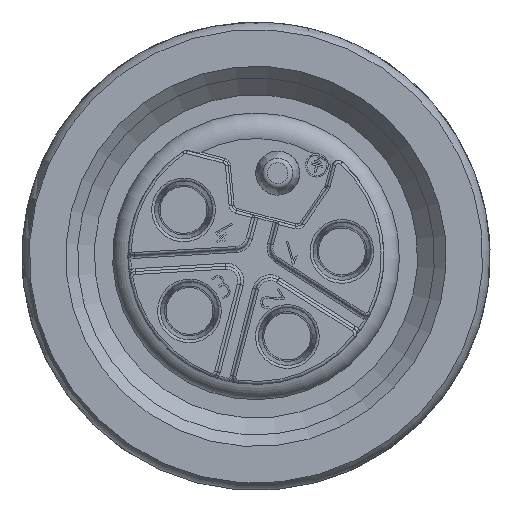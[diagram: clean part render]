
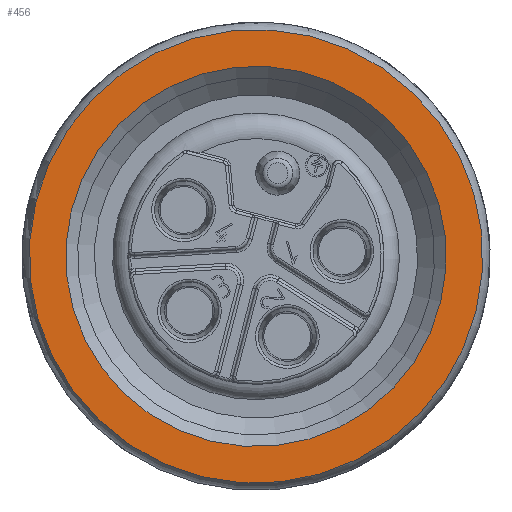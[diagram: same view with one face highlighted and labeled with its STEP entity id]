
A CAD part, left-side view. The second image highlights one B-rep face of the part: STEP entity #456.
In plain terms, the highlighted planar face has unit normal (-1, 0, 0).
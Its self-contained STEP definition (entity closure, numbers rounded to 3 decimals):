
#456 = ADVANCED_FACE( '', ( #1143, #1144 ), #1145, .T. );
#1143 = FACE_OUTER_BOUND( '', #2315, .T. );
#1144 = FACE_BOUND( '', #2316, .T. );
#1145 = PLANE( '', #2317 );
#2315 = EDGE_LOOP( '', ( #4223 ) );
#2316 = EDGE_LOOP( '', ( #4224 ) );
#2317 = AXIS2_PLACEMENT_3D( '', #4225, #4226, #4227 );
#4223 = ORIENTED_EDGE( '', *, *, #6564, .F. );
#4224 = ORIENTED_EDGE( '', *, *, #6478, .T. );
#4225 = CARTESIAN_POINT( '', ( -25., 7.398, 5.489 ) );
#4226 = DIRECTION( '', ( -1., 0., 0. ) );
#4227 = DIRECTION( '', ( 0., 1., 0. ) );
#6478 = EDGE_CURVE( '', #7548, #7548, #7549, .T. );
#6564 = EDGE_CURVE( '', #7682, #7682, #7683, .T. );
#7548 = VERTEX_POINT( '', #9171 );
#7549 = CIRCLE( '', #9172, 6.5 );
#7682 = VERTEX_POINT( '', #9392 );
#7683 = CIRCLE( '', #9393, 7.75 );
#9171 = CARTESIAN_POINT( '', ( -25., 6.66, 4.481 ) );
#9172 = AXIS2_PLACEMENT_3D( '', #11402, #11403, #11404 );
#9392 = CARTESIAN_POINT( '', ( -25., 7.398, 5.489 ) );
#9393 = AXIS2_PLACEMENT_3D( '', #11519, #11520, #11521 );
#11402 = CARTESIAN_POINT( '', ( -25., 2.822, -0.766 ) );
#11403 = DIRECTION( '', ( 1., 0., 0. ) );
#11404 = DIRECTION( '', ( 0., 0.59, 0.807 ) );
#11519 = CARTESIAN_POINT( '', ( -25., 2.822, -0.766 ) );
#11520 = DIRECTION( '', ( 1., 0., 0. ) );
#11521 = DIRECTION( '', ( 0., 0.59, 0.807 ) );
